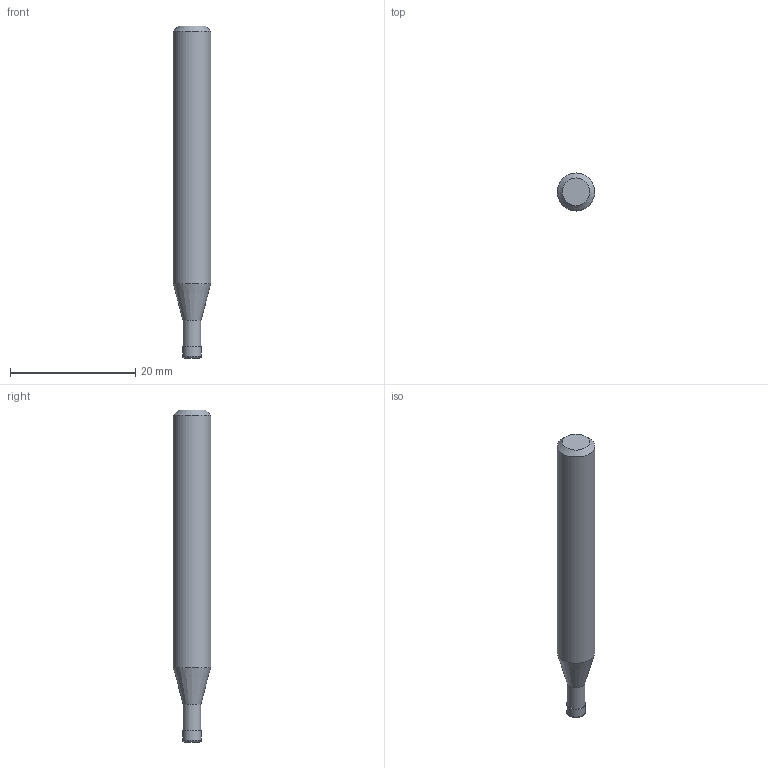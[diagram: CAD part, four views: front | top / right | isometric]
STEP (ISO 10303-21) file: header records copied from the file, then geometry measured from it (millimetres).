
FILE_DESCRIPTION((''),'2;1');
FILE_NAME('C:\Users\nsx150\AppData\Local\Temp\Mastercam 2021\KTITUSYVIC\TEMP.step','2025-03-31T18:56:19',(''),(''),'STEP Write','Mastercam 2021 ... CNC Software, Inc.','');
FILE_SCHEMA(('AUTOMOTIVE_DESIGN'));
Length unit declared in the file: millimetre
Products named in the file (1): None
Bounding box: 6 x 6 x 53 mm (x, y, z)
Volume: 1290.8 mm3; surface area: 952.2 mm2
Topology: 2 solids, 2 shells, 10 faces, 14 edges, 8 vertices
Faces by surface type: plane 4, cylinder 3, cone 2, torus 1
Full cylindrical faces by diameter (mm): 2.85 x1, 3 x1, 6 x1
Entity records: 232 total; most frequent: DIRECTION 40, CARTESIAN_POINT 28, AXIS2_PLACEMENT_3D 20, ORIENTED_EDGE 16, EDGE_LOOP 16, STYLED_ITEM 13, ADVANCED_FACE 10, FACE_BOUND 10
